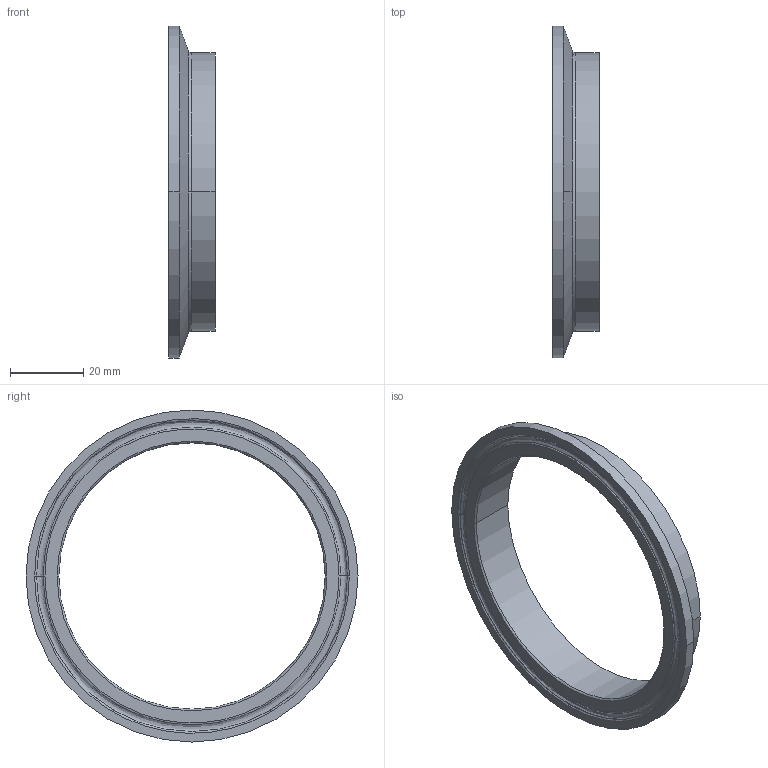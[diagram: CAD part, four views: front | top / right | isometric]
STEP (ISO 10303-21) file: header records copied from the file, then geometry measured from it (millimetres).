
FILE_DESCRIPTION (( 'STEP AP214' ), '1' );
FILE_NAME ('TEG2CS6L3.0.STEP', '2016-05-22T12:02:20', ( 'eran' ), ( '' ), 'SwSTEP 2.0', 'SolidWorks 2016', '' );
FILE_SCHEMA (( 'AUTOMOTIVE_DESIGN' ));
Length unit declared in the file: millimetre
Products named in the file (1): TEG2CS6L3.0
Bounding box: 12.7 x 90.91 x 90.91 mm (x, y, z)
Volume: 12578.2 mm3; surface area: 10265.2 mm2
Topology: 1 solids, 1 shells, 25 faces, 62 edges, 40 vertices
Faces by surface type: bspline 10, cylinder 6, cone 6, plane 3
Entity records: 1487 total; most frequent: CARTESIAN_POINT 862, DIRECTION 132, ORIENTED_EDGE 124, EDGE_CURVE 62, AXIS2_PLACEMENT_3D 60, CIRCLE 44, VERTEX_POINT 40, EDGE_LOOP 28
